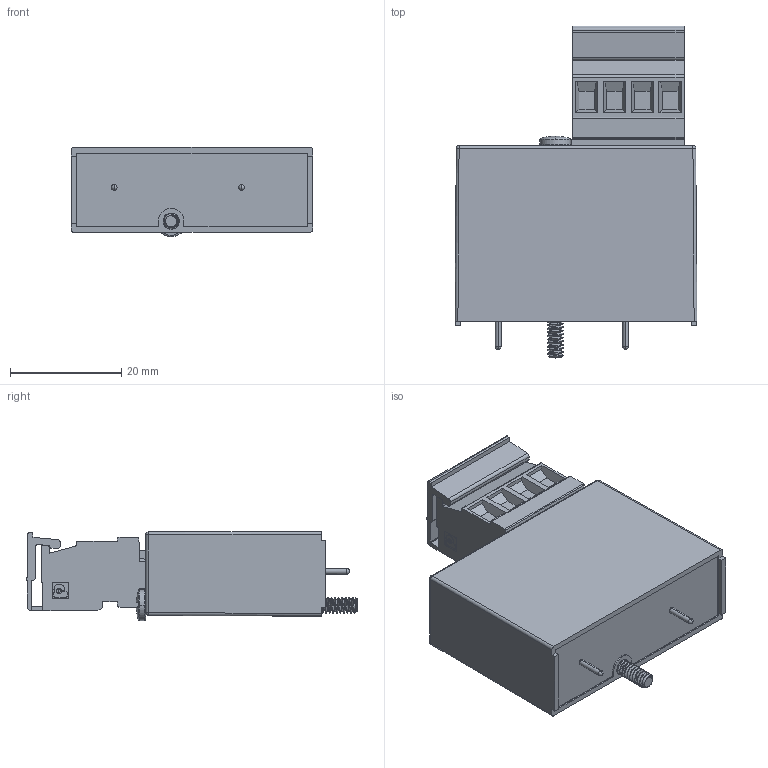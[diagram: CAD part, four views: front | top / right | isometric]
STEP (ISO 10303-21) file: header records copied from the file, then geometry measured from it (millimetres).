
FILE_DESCRIPTION (( 'STEP AP214' ), '1' );
FILE_NAME ('SCMVAS.STEP', '2017-03-29T15:48:04', ( '' ), ( '' ), 'SwSTEP 2.0', 'SolidWorks 2017', '' );
FILE_SCHEMA (( 'AUTOMOTIVE_DESIGN' ));
Length unit declared in the file: millimetre
Products named in the file (1): SCMVAS
Bounding box: 43.43 x 59.6 x 16.04 mm (x, y, z)
Volume: 10713.6 mm3; surface area: 15496.6 mm2
Topology: 9 solids, 9 shells, 1047 faces, 2809 edges, 1846 vertices
Faces by surface type: cylinder 525, plane 464, cone 23, torus 12, sphere 12, bspline 11
Entity records: 50613 total; most frequent: CARTESIAN_POINT 14343, ORIENTED_EDGE 5594, DIRECTION 4689, EDGE_CURVE 2797, VERTEX_POINT 1842, VECTOR 1585, LINE 1585, AXIS2_PLACEMENT_3D 1552
